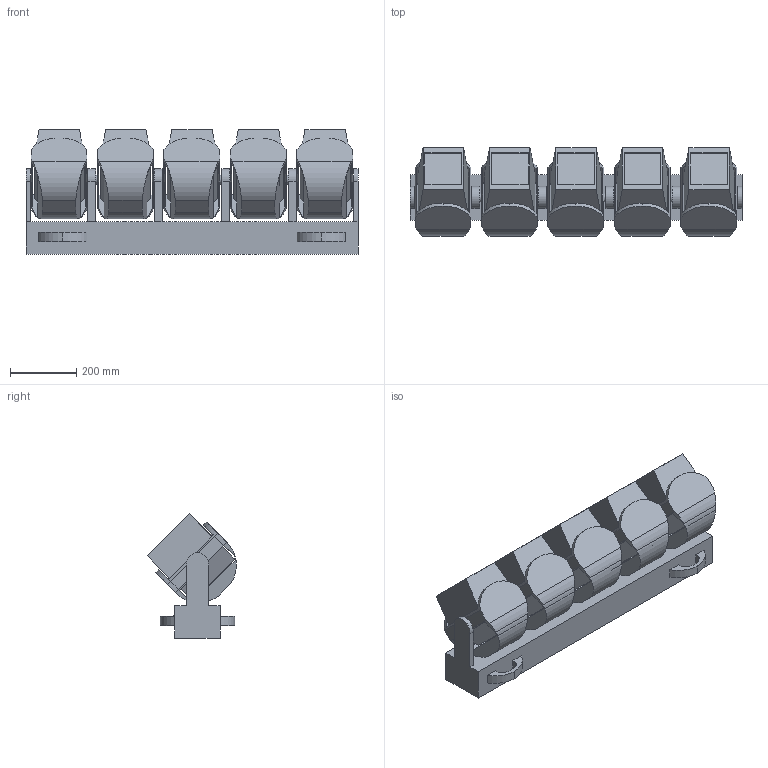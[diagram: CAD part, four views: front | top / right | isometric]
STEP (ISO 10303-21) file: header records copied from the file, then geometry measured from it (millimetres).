
FILE_DESCRIPTION(/* description */ ('Unknown'),/* implementation_level */ '2;1');
FILE_NAME(/* name */ 'COLORADOPXLCURVE5_45.stp',/* time_stamp */ '2026-02-26T12:29:55-05:00',/* author */ ('chenry'),/* organization */ (''),/* preprocessor_version */ 'ST-DEVELOPER v20',/* originating_system */ 'Autodesk Inventor 2024',/* authorisation */ '');
FILE_SCHEMA (('AUTOMOTIVE_DESIGN { 1 0 10303 214 3 1 1 }'));
Length unit declared in the file: millimetre
Products named in the file (17): C-5200 LED BAR; base; TILT; TILT (4); TILT (2); TILT (3); TILT (1); PAN; headPAN 5 (1); PAN (1); headPAN 4 (1); PAN (4); headPAN 3; PAN (2); headPAN 2 (1); PAN (3); headPAN 1
Assembly tree (17 placements, depth 3):
  C-5200 LED BAR
    base
    TILT
      TILT (1)  x2
      TILT (4)
      TILT (2)
      TILT (3)
    PAN
      headPAN 5 (1)
    PAN (1)
      headPAN 4 (1)
    PAN (4)
      headPAN 3
    PAN (2)
      headPAN 2 (1)
    PAN (3)
      headPAN 1
Bounding box: 999 x 267.17 x 373.68 mm (x, y, z)
Volume: 40456347.4 mm3; surface area: 2377780.5 mm2
Topology: 11 solids, 11 shells, 305 faces, 787 edges, 524 vertices
Faces by surface type: plane 218, cylinder 87
Full cylindrical faces by diameter (mm): 14 x10, 26.5 x15
Entity records: 9134 total; most frequent: DIRECTION 1505, CARTESIAN_POINT 1493, ORIENTED_EDGE 1418, EDGE_CURVE 709, LINE 537, VECTOR 537, AXIS2_PLACEMENT_3D 484, VERTEX_POINT 472
